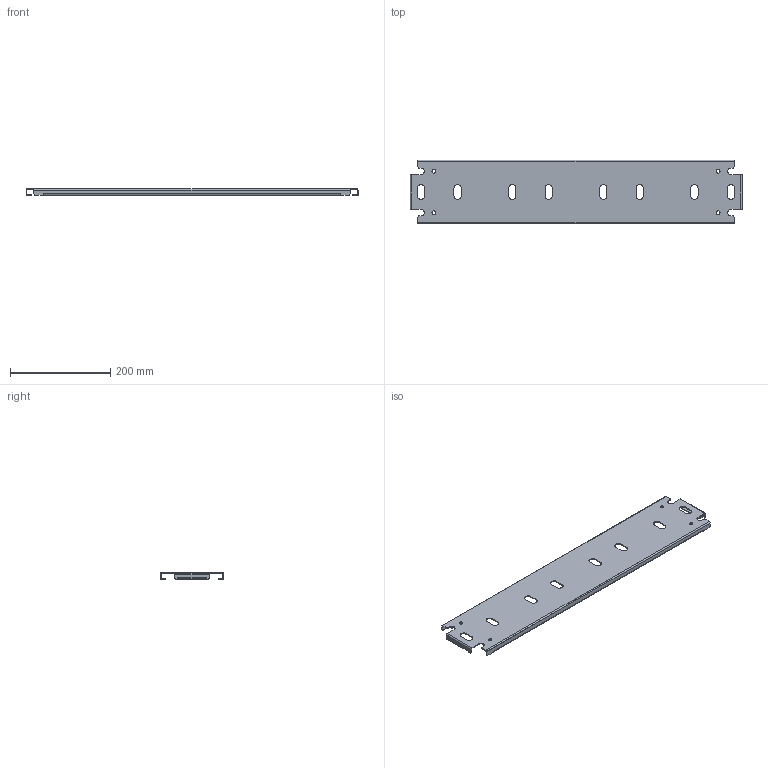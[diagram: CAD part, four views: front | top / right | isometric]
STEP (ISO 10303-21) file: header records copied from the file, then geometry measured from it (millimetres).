
FILE_DESCRIPTION(/* description */ ('1412BTCU 26.126" x 56" Inner Panel'),/* implementation_level */ '2;1');
FILE_NAME(/* name */ 'C:\Vault_Workspace\Inventor_Dwg\BoxCad\Result\1412BTCU071604\e-mail\3D\1412BTCU071604IP1.stp',/* time_stamp */ '2022-09-19T17:58:46-04:00',/* author */ ('BoxCad'),/* organization */ (''),/* preprocessor_version */ 'ST-DEVELOPER v18.1',/* originating_system */ 'Autodesk Inventor 2020',/* authorisation */ '');
FILE_SCHEMA (('AUTOMOTIVE_DESIGN { 1 0 10303 214 3 1 1 }'));
Length unit declared in the file: inch
Products named in the file (2): 1412BTCU071604IP1; 1412BTCU071604IP1-P
Assembly tree (1 placements, depth 2):
  1412BTCU071604IP1
    1412BTCU071604IP1-P
Bounding box: 663.6 x 127 x 13 mm (x, y, z)
Volume: 179715.4 mm3; surface area: 212458.7 mm2
Topology: 1 solids, 1 shells, 142 faces, 420 edges, 280 vertices
Faces by surface type: plane 82, cylinder 60
Full cylindrical faces by diameter (mm): 7.366 x4
Entity records: 4881 total; most frequent: CARTESIAN_POINT 845, ORIENTED_EDGE 840, DIRECTION 830, EDGE_CURVE 420, LINE 300, VECTOR 300, VERTEX_POINT 280, AXIS2_PLACEMENT_3D 265
